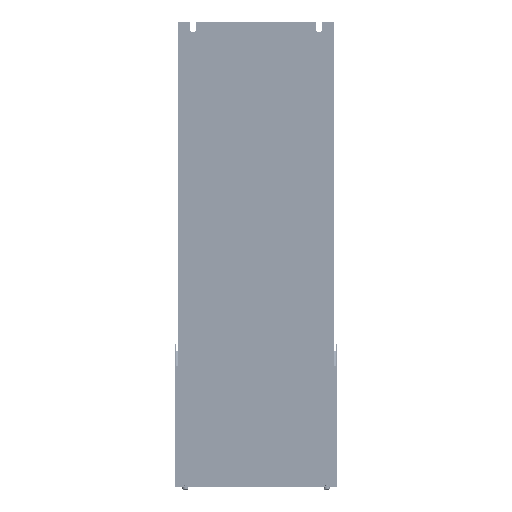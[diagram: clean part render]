
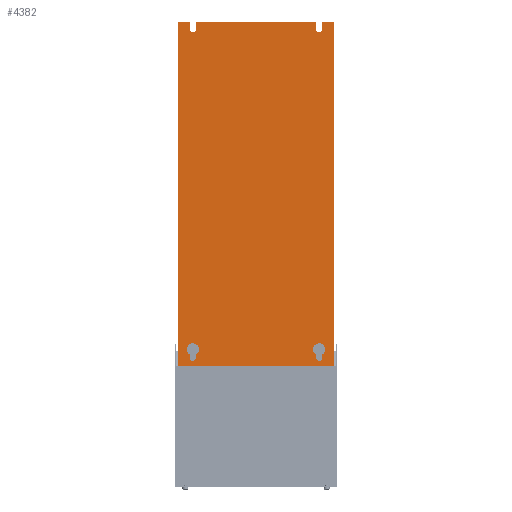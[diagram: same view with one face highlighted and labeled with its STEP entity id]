
A CAD part, front view. The second image highlights one B-rep face of the part: STEP entity #4382.
In plain terms, the highlighted planar face has unit normal (0, -1, 0).
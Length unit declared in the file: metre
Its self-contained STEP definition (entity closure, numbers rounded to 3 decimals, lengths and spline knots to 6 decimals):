
#4382=ADVANCED_FACE('',(#14377,#14378,#14379),#14380,.T.);
#14377=FACE_BOUND('',#34203,.T.);
#14378=FACE_OUTER_BOUND('',#34204,.T.);
#14379=FACE_BOUND('',#34205,.T.);
#14380=PLANE('',#34206);
#34203=EDGE_LOOP('',(#60713,#60714,#60715,#60716,#60717));
#34204=EDGE_LOOP('',(#60718,#60719,#60720,#60721,#60722,#60723,#60724,#60725,#60726,#60727,#60728,#60729));
#34205=EDGE_LOOP('',(#60730,#60731,#60732,#60733,#60734));
#34206=AXIS2_PLACEMENT_3D('',#60735,#60736,#60737);
#60713=ORIENTED_EDGE('',*,*,#126913,.T.);
#60714=ORIENTED_EDGE('',*,*,#127201,.T.);
#60715=ORIENTED_EDGE('',*,*,#127218,.T.);
#60716=ORIENTED_EDGE('',*,*,#127217,.T.);
#60717=ORIENTED_EDGE('',*,*,#127212,.T.);
#60718=ORIENTED_EDGE('',*,*,#129621,.T.);
#60719=ORIENTED_EDGE('',*,*,#127169,.F.);
#60720=ORIENTED_EDGE('',*,*,#127914,.F.);
#60721=ORIENTED_EDGE('',*,*,#127951,.T.);
#60722=ORIENTED_EDGE('',*,*,#127948,.T.);
#60723=ORIENTED_EDGE('',*,*,#127945,.F.);
#60724=ORIENTED_EDGE('',*,*,#129622,.F.);
#60725=ORIENTED_EDGE('',*,*,#129623,.T.);
#60726=ORIENTED_EDGE('',*,*,#129624,.T.);
#60727=ORIENTED_EDGE('',*,*,#129625,.F.);
#60728=ORIENTED_EDGE('',*,*,#129626,.F.);
#60729=ORIENTED_EDGE('',*,*,#129627,.T.);
#60730=ORIENTED_EDGE('',*,*,#126698,.T.);
#60731=ORIENTED_EDGE('',*,*,#129628,.T.);
#60732=ORIENTED_EDGE('',*,*,#129629,.T.);
#60733=ORIENTED_EDGE('',*,*,#129630,.T.);
#60734=ORIENTED_EDGE('',*,*,#129631,.T.);
#60735=CARTESIAN_POINT('',(-0.155,0.0,0.34));
#60736=DIRECTION('',(0.0,-1.0,0.0));
#60737=DIRECTION('',(0.0,0.0,-1.0));
#126698=EDGE_CURVE('',#151816,#151813,#151817,.T.);
#126913=EDGE_CURVE('',#152234,#152231,#152235,.T.);
#127169=EDGE_CURVE('',#152672,#152674,#152675,.T.);
#127201=EDGE_CURVE('',#152231,#152721,#152723,.T.);
#127212=EDGE_CURVE('',#152736,#152234,#152737,.T.);
#127217=EDGE_CURVE('',#152741,#152736,#152745,.T.);
#127218=EDGE_CURVE('',#152721,#152741,#152746,.T.);
#127914=EDGE_CURVE('',#153917,#152672,#153920,.T.);
#127945=EDGE_CURVE('',#153968,#153971,#153972,.T.);
#127948=EDGE_CURVE('',#153976,#153971,#153977,.T.);
#127951=EDGE_CURVE('',#153917,#153976,#153981,.T.);
#129621=EDGE_CURVE('',#156751,#152674,#156752,.T.);
#129622=EDGE_CURVE('',#156753,#153968,#156754,.T.);
#129623=EDGE_CURVE('',#156753,#156755,#156756,.T.);
#129624=EDGE_CURVE('',#156755,#156757,#156758,.T.);
#129625=EDGE_CURVE('',#156759,#156757,#156760,.T.);
#129626=EDGE_CURVE('',#156761,#156759,#156762,.T.);
#129627=EDGE_CURVE('',#156761,#156751,#156763,.T.);
#129628=EDGE_CURVE('',#151813,#156764,#156765,.T.);
#129629=EDGE_CURVE('',#156764,#156766,#156767,.T.);
#129630=EDGE_CURVE('',#156766,#156768,#156769,.T.);
#129631=EDGE_CURVE('',#156768,#151816,#156770,.T.);
#151813=VERTEX_POINT('',#192343);
#151816=VERTEX_POINT('',#192347);
#151817=CIRCLE('',#192348,0.012);
#152231=VERTEX_POINT('',#192958);
#152234=VERTEX_POINT('',#192962);
#152235=CIRCLE('',#192963,0.012);
#152672=VERTEX_POINT('',#193605);
#152674=VERTEX_POINT('',#193608);
#152675=LINE('',#193609,#193610);
#152721=VERTEX_POINT('',#193667);
#152723=CIRCLE('',#193670,0.012);
#152736=VERTEX_POINT('',#193689);
#152737=LINE('',#193690,#193691);
#152741=VERTEX_POINT('',#193697);
#152745=CIRCLE('',#193702,0.00575);
#152746=LINE('',#193703,#193704);
#153917=VERTEX_POINT('',#195549);
#153920=LINE('',#195553,#195554);
#153968=VERTEX_POINT('',#195631);
#153971=VERTEX_POINT('',#195635);
#153972=LINE('',#195636,#195637);
#153976=VERTEX_POINT('',#195643);
#153977=CIRCLE('',#195644,0.00575);
#153981=LINE('',#195649,#195650);
#156751=VERTEX_POINT('',#200034);
#156752=LINE('',#200035,#200036);
#156753=VERTEX_POINT('',#200037);
#156754=LINE('',#200038,#200039);
#156755=VERTEX_POINT('',#200040);
#156756=LINE('',#200041,#200042);
#156757=VERTEX_POINT('',#200043);
#156758=CIRCLE('',#200044,0.00575);
#156759=VERTEX_POINT('',#200045);
#156760=LINE('',#200046,#200047);
#156761=VERTEX_POINT('',#200048);
#156762=LINE('',#200049,#200050);
#156763=LINE('',#200051,#200052);
#156764=VERTEX_POINT('',#200053);
#156765=CIRCLE('',#200054,0.012);
#156766=VERTEX_POINT('',#200055);
#156767=LINE('',#200056,#200057);
#156768=VERTEX_POINT('',#200058);
#156769=CIRCLE('',#200059,0.00575);
#156770=LINE('',#200060,#200061);
#192343=CARTESIAN_POINT('',(-0.11925,0.0,-0.297467));
#192347=CARTESIAN_POINT('',(-0.13075,0.0,-0.318533));
#192348=AXIS2_PLACEMENT_3D('',#253908,#253909,#253910);
#192958=CARTESIAN_POINT('',(0.13075,0.0,-0.297467));
#192962=CARTESIAN_POINT('',(0.11925,0.0,-0.318533));
#192963=AXIS2_PLACEMENT_3D('',#254354,#254355,#254356);
#193605=CARTESIAN_POINT('',(0.155,0.0,0.34));
#193608=CARTESIAN_POINT('',(0.155,0.0,-0.34));
#193609=CARTESIAN_POINT('',(0.155,0.0,0.34));
#193610=VECTOR('',#254710,0.68);
#193667=CARTESIAN_POINT('',(0.13075,0.0,-0.318533));
#193670=AXIS2_PLACEMENT_3D('',#254780,#254781,#254782);
#193689=CARTESIAN_POINT('',(0.11925,0.0,-0.325));
#193690=CARTESIAN_POINT('',(0.11925,0.0,-0.325));
#193691=VECTOR('',#254801,0.006467);
#193697=CARTESIAN_POINT('',(0.13075,0.0,-0.325));
#193702=AXIS2_PLACEMENT_3D('',#254808,#254809,#254810);
#193703=CARTESIAN_POINT('',(0.13075,0.0,-0.318533));
#193704=VECTOR('',#254811,0.006467);
#195549=CARTESIAN_POINT('',(0.13075,0.0,0.34));
#195553=CARTESIAN_POINT('',(0.13075,0.0,0.34));
#195554=VECTOR('',#255547,0.02425);
#195631=CARTESIAN_POINT('',(0.11925,0.0,0.34));
#195635=CARTESIAN_POINT('',(0.11925,0.0,0.325));
#195636=CARTESIAN_POINT('',(0.11925,0.0,0.34));
#195637=VECTOR('',#255578,0.015);
#195643=CARTESIAN_POINT('',(0.13075,0.0,0.325));
#195644=AXIS2_PLACEMENT_3D('',#255581,#255582,#255583);
#195649=CARTESIAN_POINT('',(0.13075,0.0,0.34));
#195650=VECTOR('',#255588,0.015);
#200034=CARTESIAN_POINT('',(-0.155,0.0,-0.34));
#200035=CARTESIAN_POINT('',(-0.155,0.0,-0.34));
#200036=VECTOR('',#257438,0.31);
#200037=CARTESIAN_POINT('',(-0.11925,0.0,0.34));
#200038=CARTESIAN_POINT('',(-0.11925,0.0,0.34));
#200039=VECTOR('',#257439,0.2385);
#200040=CARTESIAN_POINT('',(-0.11925,0.0,0.325));
#200041=CARTESIAN_POINT('',(-0.11925,0.0,0.34));
#200042=VECTOR('',#257440,0.015);
#200043=CARTESIAN_POINT('',(-0.13075,0.0,0.325));
#200044=AXIS2_PLACEMENT_3D('',#257441,#257442,#257443);
#200045=CARTESIAN_POINT('',(-0.13075,0.0,0.34));
#200046=CARTESIAN_POINT('',(-0.13075,0.0,0.34));
#200047=VECTOR('',#257444,0.015);
#200048=CARTESIAN_POINT('',(-0.155,0.0,0.34));
#200049=CARTESIAN_POINT('',(-0.155,0.0,0.34));
#200050=VECTOR('',#257445,0.02425);
#200051=CARTESIAN_POINT('',(-0.155,0.0,0.34));
#200052=VECTOR('',#257446,0.68);
#200053=CARTESIAN_POINT('',(-0.11925,0.0,-0.318533));
#200054=AXIS2_PLACEMENT_3D('',#257447,#257448,#257449);
#200055=CARTESIAN_POINT('',(-0.11925,0.0,-0.325));
#200056=CARTESIAN_POINT('',(-0.11925,0.0,-0.318533));
#200057=VECTOR('',#257450,0.006467);
#200058=CARTESIAN_POINT('',(-0.13075,0.0,-0.325));
#200059=AXIS2_PLACEMENT_3D('',#257451,#257452,#257453);
#200060=CARTESIAN_POINT('',(-0.13075,0.0,-0.325));
#200061=VECTOR('',#257454,0.006467);
#253908=CARTESIAN_POINT('',(-0.125,0.0,-0.308));
#253909=DIRECTION('',(0.0,1.0,0.0));
#253910=DIRECTION('',(-0.479,0.0,-0.878));
#254354=CARTESIAN_POINT('',(0.125,0.0,-0.308));
#254355=DIRECTION('',(0.0,1.0,0.0));
#254356=DIRECTION('',(-0.479,0.0,-0.878));
#254710=DIRECTION('',(0.0,0.0,-1.0));
#254780=CARTESIAN_POINT('',(0.125,0.0,-0.308));
#254781=DIRECTION('',(0.0,1.0,0.0));
#254782=DIRECTION('',(-0.479,0.0,-0.878));
#254801=DIRECTION('',(0.0,0.0,1.0));
#254808=CARTESIAN_POINT('',(0.125,0.0,-0.325));
#254809=DIRECTION('',(-0.0,1.0,0.0));
#254810=DIRECTION('',(1.0,0.0,0.0));
#254811=DIRECTION('',(0.,0.0,-1.0));
#255547=DIRECTION('',(1.0,0.0,0.0));
#255578=DIRECTION('',(0.0,0.0,-1.0));
#255581=CARTESIAN_POINT('',(0.125,0.0,0.325));
#255582=DIRECTION('',(-0.0,1.0,0.0));
#255583=DIRECTION('',(1.0,0.0,0.0));
#255588=DIRECTION('',(0.0,0.0,-1.0));
#257438=DIRECTION('',(1.0,0.0,0.0));
#257439=DIRECTION('',(1.0,0.0,0.0));
#257440=DIRECTION('',(0.0,0.0,-1.0));
#257441=CARTESIAN_POINT('',(-0.125,0.0,0.325));
#257442=DIRECTION('',(-0.0,1.0,0.0));
#257443=DIRECTION('',(1.0,0.0,0.0));
#257444=DIRECTION('',(0.0,0.0,-1.0));
#257445=DIRECTION('',(1.0,0.0,0.0));
#257446=DIRECTION('',(0.0,0.0,-1.0));
#257447=CARTESIAN_POINT('',(-0.125,0.0,-0.308));
#257448=DIRECTION('',(0.0,1.0,0.0));
#257449=DIRECTION('',(-0.479,0.0,-0.878));
#257450=DIRECTION('',(0.,0.0,-1.0));
#257451=CARTESIAN_POINT('',(-0.125,0.0,-0.325));
#257452=DIRECTION('',(-0.0,1.0,0.0));
#257453=DIRECTION('',(1.0,0.0,0.0));
#257454=DIRECTION('',(0.0,0.0,1.0));
